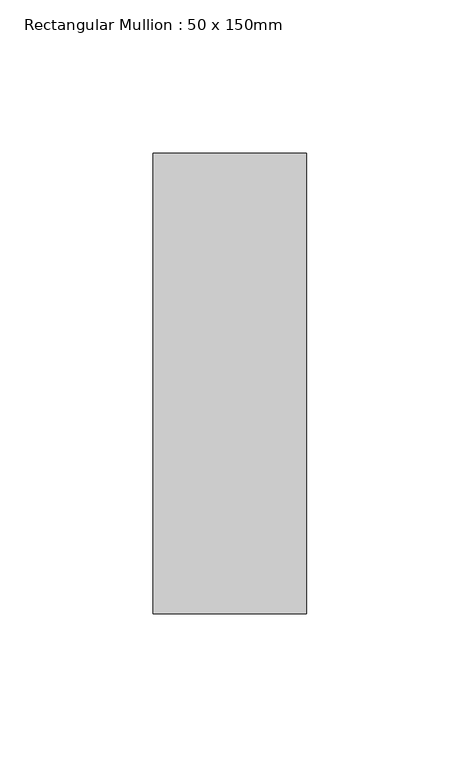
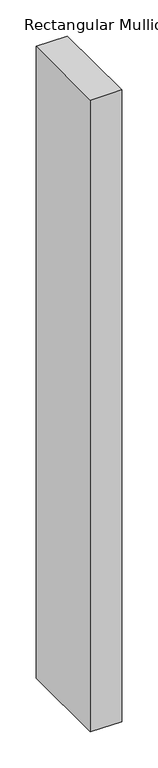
"""IFC4 building model written with IfcOpenShell, lengths in millimetres: member geometry, Rectangular Mullion : 50 x 150mm."""

from ifc_helpers import new_model, si_unit, frame, origin, place, context, project, spatial, polyline, outline, extrude, source, transform, mapped, element, save


def rectangular_mullion_50_x_150mm_bcd36f77(model_context):
    return source(origin(), model_context, "Body", "SweptSolid", [
        extrude(outline(polyline([(0.0, 75.0), (0.0, -75.0), (-50.0, -75.0), (-50.0, 75.0), (0.0, 75.0)])), frame((0.0, 0.0, -1066.8831683), z_axis=(0.0, 0.0, 1.0), x_axis=(1.0, 0.0, 0.0)), (0.0, 0.0, 1.0), 1066.8831683),
    ])


if __name__ == "__main__":
    model = new_model("IFC4")
    model_context = context("Model", 3, world=origin())
    ifc_project = project(units=[si_unit("LENGTHUNIT", "METRE", prefix="MILLI")], contexts=[model_context])
    site = spatial("IfcSite", under=ifc_project)
    building = spatial("IfcBuilding", under=site)
    placement = place(None, origin())
    rectangular_mullion_50_x_150mm_shape = rectangular_mullion_50_x_150mm_bcd36f77(model_context)
    element("IfcMember", 1, ObjectType="Rectangular Mullion : 50 x 150mm", at=placement, inside=building, context=model_context, shape_type="MappedRepresentation", body=[
        mapped(rectangular_mullion_50_x_150mm_shape, transform((0.0, 0.0, 0.0), x_axis=(1.0, 0.0, 0.0), y_axis=(0.0, 1.0, 0.0), z_axis=(0.0, 0.0, 1.0))),
    ])
    save(model, "model.ifc")
